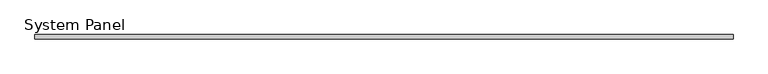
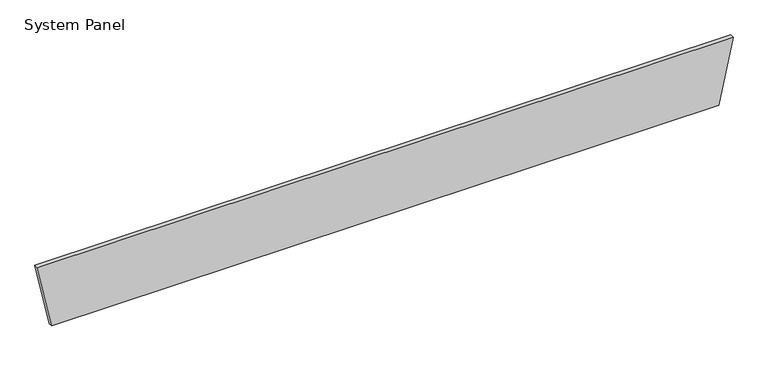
"""IFC4 building model written with IfcOpenShell, lengths in millimetres: plate geometry, System Panel : Equitilt_75mm_Plain_Surfmist."""

from ifc_helpers import new_model, si_unit, frame, origin, place, context, project, spatial, polyline, outline, extrude, source, transform, mapped, element, save


def system_panel_89863b5f(model_context):
    return source(origin(), model_context, "Body", "SweptSolid", [
        extrude(outline(polyline([(0.0, -6000.0), (0.0, 6000.0), (1200.0, 6260.8716619), (1200.0, -6260.8716619), (0.0, -6000.0)])), frame((0.0, -75.0, 0.0), z_axis=(0.0, 1.0, 0.0), x_axis=(0.0, 0.0, 1.0)), (0.0, 0.0, 1.0), 75.0),
    ])


if __name__ == "__main__":
    model = new_model("IFC4")
    model_context = context("Model", 3, world=origin())
    ifc_project = project(units=[si_unit("LENGTHUNIT", "METRE", prefix="MILLI")], contexts=[model_context])
    site = spatial("IfcSite", under=ifc_project)
    building = spatial("IfcBuilding", under=site)
    placement = place(None, origin())
    system_panel_shape = system_panel_89863b5f(model_context)
    element("IfcPlate", 1, ObjectType="System Panel : Equitilt_75mm_Plain_Surfmist", at=placement, inside=building, context=model_context, shape_type="MappedRepresentation", body=[
        mapped(system_panel_shape, transform((0.0, 0.0, 0.0), x_axis=(1.0, 0.0, 0.0), y_axis=(0.0, 1.0, 0.0), z_axis=(0.0, 0.0, 1.0))),
    ])
    save(model, "model.ifc")
